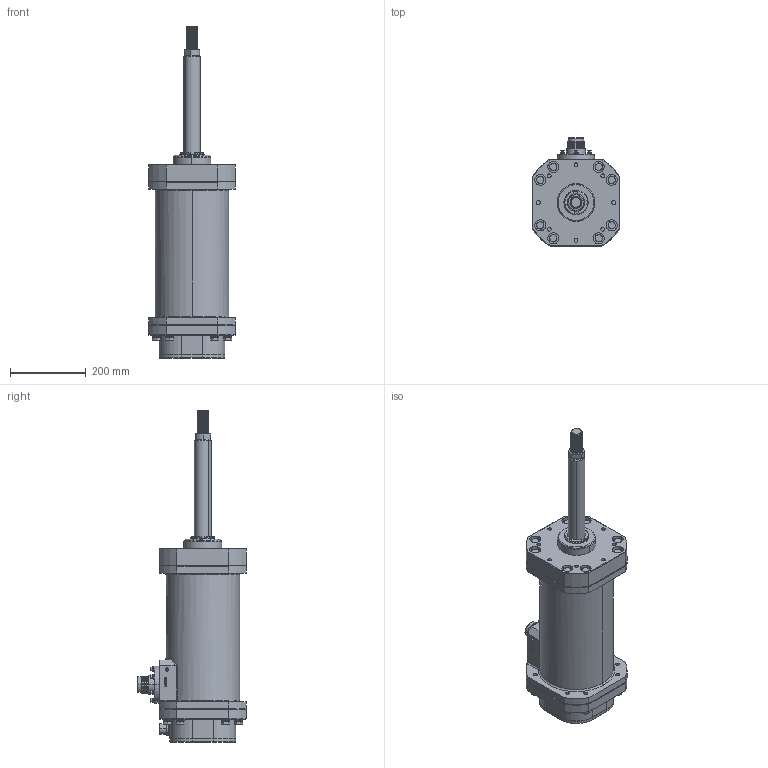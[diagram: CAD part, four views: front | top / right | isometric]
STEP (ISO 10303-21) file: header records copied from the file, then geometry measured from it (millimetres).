
FILE_DESCRIPTION (( 'STEP AP203' ), '1' );
FILE_NAME ('MD-IND25-ME-10000-R08.STEP', '2025-12-23T03:23:11', ( '' ), ( '' ), 'SwSTEP 2.0', 'SolidWorks 2024', '' );
FILE_SCHEMA (( 'CONFIG_CONTROL_DESIGN' ));
Products named in the file (1): MD-IND25-ME-10000-R08
Bounding box: 230 x 287.4 x 878.98 mm (x, y, z)
Surface area: 768709.5 mm2 (no closed solid volume)
Topology: 0 solids, 155 shells, 992 faces, 4069 edges, 3161 vertices
Faces by surface type: plane 359, cylinder 352, cone 177, bspline 80, torus 22, sphere 2
Entity records: 81396 total; most frequent: CARTESIAN_POINT 50896, ORIENTED_EDGE 5680, DIRECTION 5538, EDGE_CURVE 4067, VERTEX_POINT 3161, AXIS2_PLACEMENT_3D 2034, VECTOR 1470, LINE 1470
